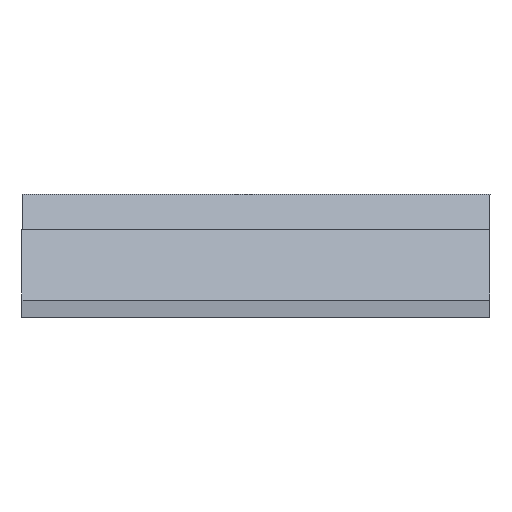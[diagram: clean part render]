
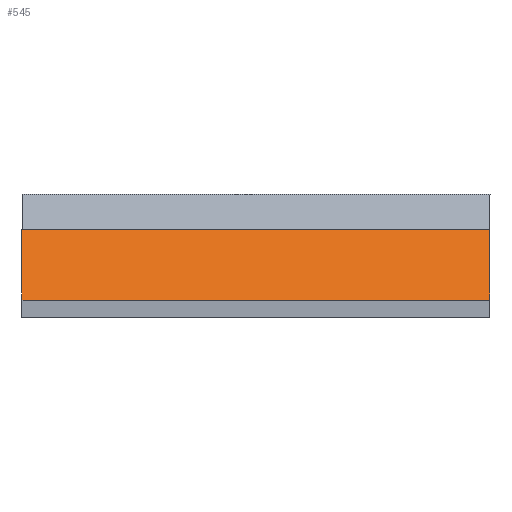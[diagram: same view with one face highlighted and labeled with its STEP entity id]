
A CAD part, left-side view. The second image highlights one B-rep face of the part: STEP entity #545.
In plain terms, the highlighted planar face has unit normal (-0.707, 0, 0.707).
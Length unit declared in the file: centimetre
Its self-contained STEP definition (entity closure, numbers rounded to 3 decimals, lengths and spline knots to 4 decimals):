
#61=FACE_OUTER_BOUND($,#92,.T.);
#92=EDGE_LOOP($,(#437,#438,#439,#440));
#138=LINE($,#815,#198);
#152=LINE($,#847,#212);
#160=LINE($,#870,#220);
#162=LINE($,#873,#222);
#198=VECTOR($,#651,0.5657);
#212=VECTOR($,#679,2.6566);
#220=VECTOR($,#701,2.6566);
#222=VECTOR($,#705,0.5657);
#257=VERTEX_POINT($,#812);
#258=VERTEX_POINT($,#814);
#269=VERTEX_POINT($,#845);
#277=VERTEX_POINT($,#869);
#313=EDGE_CURVE($,#258,#257,#138,.T.);
#330=EDGE_CURVE($,#257,#269,#152,.T.);
#341=EDGE_CURVE($,#277,#258,#160,.T.);
#343=EDGE_CURVE($,#269,#277,#162,.T.);
#437=ORIENTED_EDGE($,*,*,#313,.T.);
#438=ORIENTED_EDGE($,*,*,#330,.T.);
#439=ORIENTED_EDGE($,*,*,#343,.T.);
#440=ORIENTED_EDGE($,*,*,#341,.T.);
#519=PLANE($,#587);
#545=ADVANCED_FACE($,(#61),#519,.T.);
#587=AXIS2_PLACEMENT_3D($,#872,#703,#704);
#651=DIRECTION($,(0.707,0.,0.707));
#679=DIRECTION($,(0.,1.,0.));
#701=DIRECTION($,(0.,-1.,0.));
#703=DIRECTION('center_axis',(-0.707,0.,
0.707));
#704=DIRECTION('ref_axis',(0.707,0.,0.707));
#705=DIRECTION($,(-0.707,0.,-0.707));
#812=CARTESIAN_POINT('',(-27.3788,5.5866,14.5313));
#814=CARTESIAN_POINT('',(-27.7788,5.5866,14.1313));
#815=CARTESIAN_POINT($,(-25.6738,5.5864,16.2364));
#845=CARTESIAN_POINT('',(-27.3788,8.2432,14.5313));
#847=CARTESIAN_POINT($,(-27.3788,6.5032,14.5313));
#869=CARTESIAN_POINT('',(-27.7788,8.2432,14.1313));
#870=CARTESIAN_POINT($,(-27.7788,4.8927,14.1313));
#872=CARTESIAN_POINT('Origin',(-27.5788,6.5032,14.3313));
#873=CARTESIAN_POINT($,(-26.7288,8.2432,15.1813));
